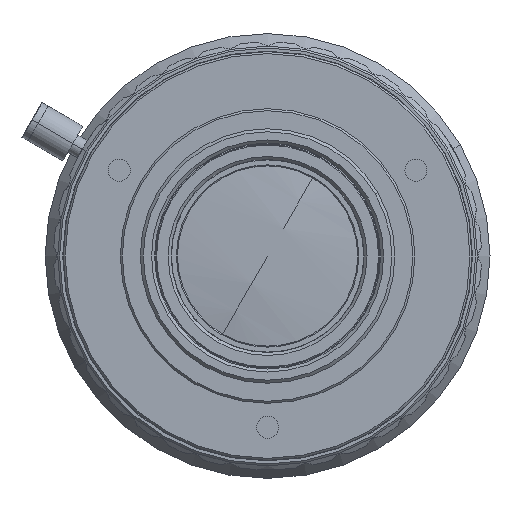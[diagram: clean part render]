
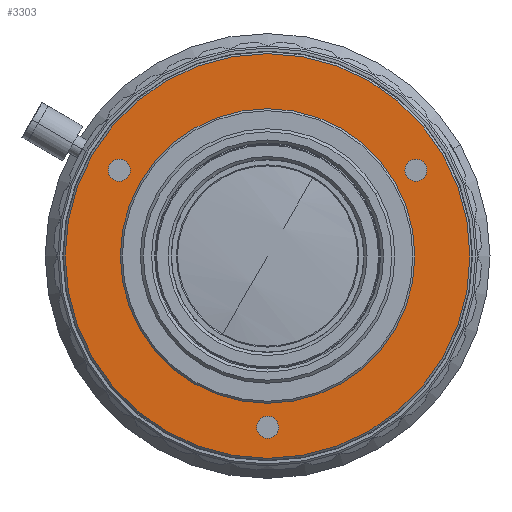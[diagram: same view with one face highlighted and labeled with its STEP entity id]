
A CAD part, front view. The second image highlights one B-rep face of the part: STEP entity #3303.
In plain terms, the highlighted planar face has unit normal (0, -1, 0).
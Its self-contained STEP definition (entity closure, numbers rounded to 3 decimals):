
#2504=CARTESIAN_POINT('',(93.988,2.645,-7.433));
#2505=DIRECTION('',(0.,1.,0.));
#2506=DIRECTION('',(-0.866,0.,-0.5));
#2507=AXIS2_PLACEMENT_3D('',#2504,#2505,#2506);
#2509=CARTESIAN_POINT('',(93.988,2.645,-7.433));
#2510=DIRECTION('',(0.,1.,0.));
#2511=DIRECTION('',(0.866,0.,0.5));
#2512=AXIS2_PLACEMENT_3D('',#2509,#2510,#2511);
#2514=CARTESIAN_POINT('',(93.988,2.645,-7.433));
#2515=DIRECTION('',(0.,-1.,0.));
#2516=DIRECTION('',(-0.866,0.,-0.5));
#2517=AXIS2_PLACEMENT_3D('',#2514,#2515,#2516);
#2519=CARTESIAN_POINT('',(93.988,2.645,-7.433));
#2520=DIRECTION('',(0.,-1.,0.));
#2521=DIRECTION('',(0.866,0.,0.5));
#2522=AXIS2_PLACEMENT_3D('',#2519,#2520,#2521);
#2524=CARTESIAN_POINT('',(108.797,2.645,1.117));
#2525=DIRECTION('',(0.,-1.,0.));
#2526=DIRECTION('',(0.866,0.,0.5));
#2527=AXIS2_PLACEMENT_3D('',#2524,#2525,#2526);
#2529=CARTESIAN_POINT('',(108.797,2.645,1.117));
#2530=DIRECTION('',(0.,-1.,0.));
#2531=DIRECTION('',(-0.866,0.,-0.5));
#2532=AXIS2_PLACEMENT_3D('',#2529,#2530,#2531);
#2534=CARTESIAN_POINT('',(93.988,2.645,-24.533));
#2535=DIRECTION('',(0.,-1.,0.));
#2536=DIRECTION('',(0.,0.,-1.));
#2537=AXIS2_PLACEMENT_3D('',#2534,#2535,#2536);
#2539=CARTESIAN_POINT('',(93.988,2.645,-24.533));
#2540=DIRECTION('',(0.,-1.,0.));
#2541=DIRECTION('',(0.,0.,1.));
#2542=AXIS2_PLACEMENT_3D('',#2539,#2540,#2541);
#2544=CARTESIAN_POINT('',(79.179,2.645,1.117));
#2545=DIRECTION('',(0.,-1.,0.));
#2546=DIRECTION('',(-0.866,0.,0.5));
#2547=AXIS2_PLACEMENT_3D('',#2544,#2545,#2546);
#2549=CARTESIAN_POINT('',(79.179,2.645,1.117));
#2550=DIRECTION('',(0.,-1.,0.));
#2551=DIRECTION('',(0.866,0.,-0.5));
#2552=AXIS2_PLACEMENT_3D('',#2549,#2550,#2551);
#2794=CARTESIAN_POINT('',(111.482,2.645,2.667));
#2795=VERTEX_POINT('',#2794);
#2796=CARTESIAN_POINT('',(76.494,2.645,-17.533));
#2797=VERTEX_POINT('',#2796);
#2798=CARTESIAN_POINT('',(109.75,2.645,1.667));
#2799=CARTESIAN_POINT('',(107.844,2.645,0.567));
#2800=VERTEX_POINT('',#2798);
#2801=VERTEX_POINT('',#2799);
#2802=CARTESIAN_POINT('',(93.988,2.645,-25.633));
#2803=CARTESIAN_POINT('',(93.988,2.645,-23.433));
#2804=VERTEX_POINT('',#2802);
#2805=VERTEX_POINT('',#2803);
#2806=CARTESIAN_POINT('',(78.226,2.645,1.667));
#2807=CARTESIAN_POINT('',(80.132,2.645,0.567));
#2808=VERTEX_POINT('',#2806);
#2809=VERTEX_POINT('',#2807);
#2810=CARTESIAN_POINT('',(81.257,2.645,-14.783));
#2811=CARTESIAN_POINT('',(106.719,2.645,
-0.083));
#2812=VERTEX_POINT('',#2810);
#2813=VERTEX_POINT('',#2811);
#3270=CARTESIAN_POINT('',(93.988,2.645,-7.433));
#3271=DIRECTION('',(0.,1.,0.));
#3272=DIRECTION('',(-0.866,0.,-0.5));
#3273=AXIS2_PLACEMENT_3D('',#3270,#3271,#3272);
#3274=PLANE('',#3273);
#3275=ORIENTED_EDGE('',*,*,#3263,.T.);
#3276=ORIENTED_EDGE('',*,*,#3252,.T.);
#3277=EDGE_LOOP('',(#3275,#3276));
#3278=FACE_OUTER_BOUND('',#3277,.F.);
#3280=ORIENTED_EDGE('',*,*,#3279,.T.);
#3282=ORIENTED_EDGE('',*,*,#3281,.T.);
#3283=EDGE_LOOP('',(#3280,#3282));
#3284=FACE_BOUND('',#3283,.F.);
#3286=ORIENTED_EDGE('',*,*,#3285,.T.);
#3288=ORIENTED_EDGE('',*,*,#3287,.T.);
#3289=EDGE_LOOP('',(#3286,#3288));
#3290=FACE_BOUND('',#3289,.F.);
#3292=ORIENTED_EDGE('',*,*,#3291,.T.);
#3294=ORIENTED_EDGE('',*,*,#3293,.T.);
#3295=EDGE_LOOP('',(#3292,#3294));
#3296=FACE_BOUND('',#3295,.F.);
#3298=ORIENTED_EDGE('',*,*,#3297,.T.);
#3300=ORIENTED_EDGE('',*,*,#3299,.T.);
#3301=EDGE_LOOP('',(#3298,#3300));
#3302=FACE_BOUND('',#3301,.F.);
#2508=CIRCLE('',#2507,20.2);
#2513=CIRCLE('',#2512,20.2);
#2518=CIRCLE('',#2517,14.7);
#2523=CIRCLE('',#2522,14.7);
#2528=CIRCLE('',#2527,1.1);
#2533=CIRCLE('',#2532,1.1);
#2538=CIRCLE('',#2537,1.1);
#2543=CIRCLE('',#2542,1.1);
#2548=CIRCLE('',#2547,1.1);
#2553=CIRCLE('',#2552,1.1);
#3252=EDGE_CURVE('',#2795,#2797,#2513,.T.);
#3263=EDGE_CURVE('',#2797,#2795,#2508,.T.);
#3279=EDGE_CURVE('',#2812,#2813,#2518,.T.);
#3281=EDGE_CURVE('',#2813,#2812,#2523,.T.);
#3285=EDGE_CURVE('',#2800,#2801,#2528,.T.);
#3287=EDGE_CURVE('',#2801,#2800,#2533,.T.);
#3291=EDGE_CURVE('',#2804,#2805,#2538,.T.);
#3293=EDGE_CURVE('',#2805,#2804,#2543,.T.);
#3297=EDGE_CURVE('',#2808,#2809,#2548,.T.);
#3299=EDGE_CURVE('',#2809,#2808,#2553,.T.);
#3303=ADVANCED_FACE('',(#3278,#3284,#3290,#3296,#3302),#3274,.F.);
